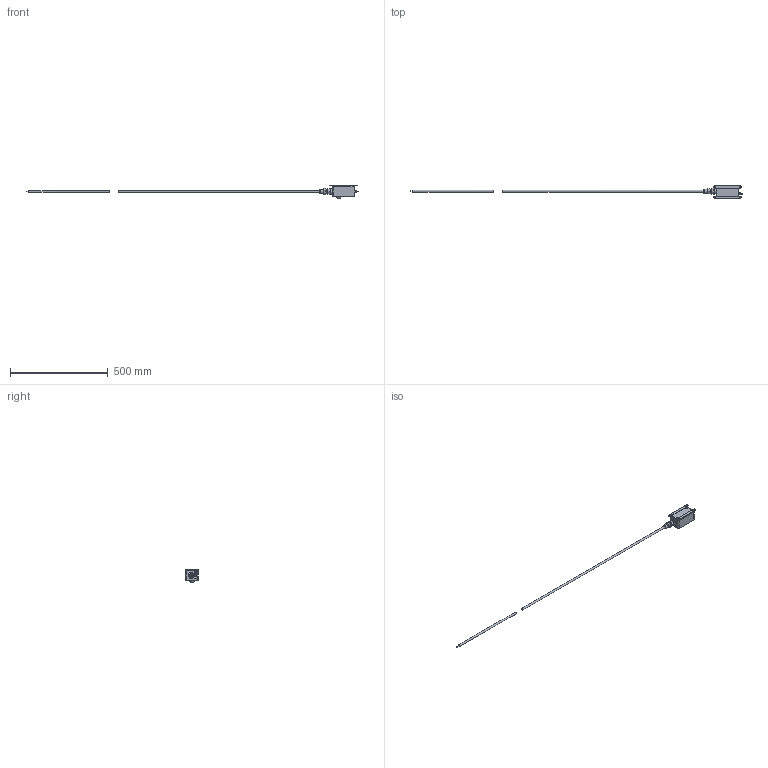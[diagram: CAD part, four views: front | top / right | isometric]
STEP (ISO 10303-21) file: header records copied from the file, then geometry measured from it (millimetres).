
FILE_DESCRIPTION(/* description */ ('','CAx-IF Rec.Pracs.---Representation and Presentation of Product Manufacturing Information (PMI)---3.8---2014-02-18'),/* implementation_level */ '2;1');
FILE_NAME(/* name */ 'C:\Users\suhorukovav\Desktop\ПОЖАРКА ДЛЯ САЙТА\НОВОЕ\Филин-1-Т1-2 ЗАО НПК ЭТАЛОН.stp',/* time_stamp */ '2016-12-25T11:26:44+03:00',/* author */ ('suhorukovav'),/* organization */ (''),/* preprocessor_version */ 'ST-DEVELOPER v16.1',/* originating_system */ 'Autodesk Inventor 2016',/* authorisation */ '');
FILE_SCHEMA (('AP242_MANAGED_MODEL_BASED_3D_ENGINEERING_MIM_LF { 1 0 10303 442 1 1 4 }'));
Length unit declared in the file: millimetre
Products named in the file (2): Сборка7_Substitute_1; Сборка7
Assembly tree (1 placements, depth 2):
  Сборка7
    Сборка7_Substitute_1
Bounding box: 1700 x 66.1 x 69 mm (x, y, z)
Surface area: 148103.9 mm2 (no closed solid volume)
Topology: 0 solids, 33 shells, 853 faces, 2020 edges, 1313 vertices
Faces by surface type: plane 465, cylinder 190, cone 103, bspline 80, torus 10, sphere 5
Full cylindrical faces by diameter (mm): 1 x2, 2 x7, 2.459 x6, 3 x9, 3.4 x3, 3.5 x6, 4.134 x3, 4.2 x10, 5 x1, 5.3 x2, 5.5 x3, 6 x16, 8 x5, 8.8 x4, 10 x5, 11 x2, 12 x1, 17.8 x1, 18 x2, 18.376 x1, 20 x3, 21 x1, 24 x1, 24.2 x1, 27 x2, 43.2 x1, 43.5 x1, 46.2 x2, 55 x2
Entity records: 24475 total; most frequent: CARTESIAN_POINT 5402, ORIENTED_EDGE 3612, DIRECTION 3598, EDGE_CURVE 1806, AXIS2_PLACEMENT_3D 1288, VERTEX_POINT 1276, EDGE_LOOP 1162, LINE 1022
